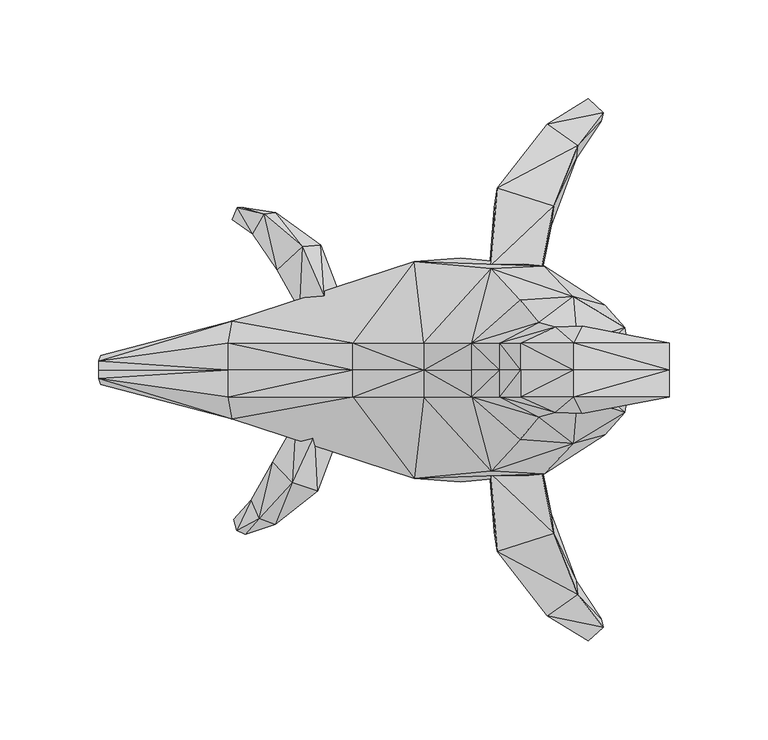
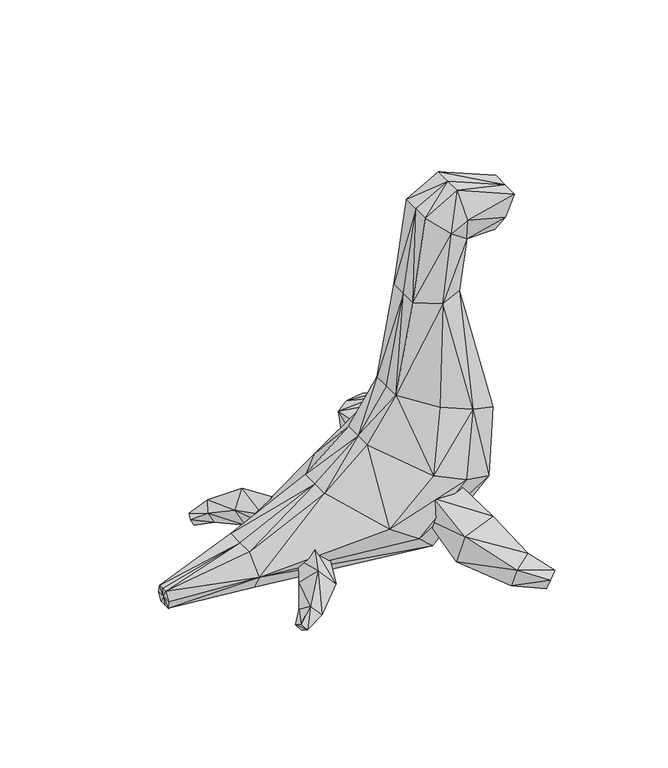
"""IFC4 building model written with IfcOpenShell, lengths in millimetres: geographic element geometry, Enscape AssetDefinition - Plushy 05 1 : Enscape AssetDefinition - Plushy 05 1."""

from ifc_helpers import new_model, si_unit, origin, place, context, project, spatial, faceted_brep, source, transform, mapped, element, save


def geographic_element_082f936b(model_context):
    return source(origin(), model_context, "Body", "Brep", [
        faceted_brep([(151.3231993, -13.6622097, 273.3122408), (107.2338149, -22.2273469, 270.5610693), (143.7341422, -13.6265568, 255.2364767), (103.1615436, -13.6622125, 293.5328484), (93.7436968, -21.6093324, 262.9465759), (111.3060787, -13.662206, 247.5892454), (151.3231993, -2.31e-05, 273.3122408), (76.1813223, -13.6622097, 278.3038914), (103.1615436, -2.55e-05, 293.5328484), (85.2843598, -23.8805264, 205.2417248), (65.6936392, -13.6622014, 206.7632824), (76.1813223, -2.37e-05, 278.3038914), (103.1615436, 13.6621594, 293.5328484), (76.1813223, 13.6621613, 278.3038914), (65.6936392, -1.52e-05, 206.7632824), (65.6936392, 13.6621697, 206.7632824), (51.3715632, -13.6621892, 129.3358952), (51.3715632, -5.9e-06, 129.3358952), (51.3715632, 13.6621771, 129.3359101), (85.2843598, 23.8804966, 205.2417248), (93.7436968, 21.6092896, 262.9465759), (111.3060787, 13.662165, 247.5892454), (107.2338149, 22.2273041, 270.5610693), (104.8750877, 13.6621697, 203.7201524), (76.0517791, 35.2983065, 123.1517345), (102.8487235, 37.1764675, 113.1877452), (111.3060787, -2e-05, 247.5892454), (104.8750877, -1.48e-05, 203.7201524), (128.8543195, 21.491209, 96.8029872), (118.803449, 32.9132229, 45.6662364), (88.2167146, 52.5729321, 64.7442639), (61.1773878, 51.2482561, 77.0368725), (27.1974765, 13.6621809, 93.5964361), (22.2688932, 54.9200587, 45.2668704), (45.8467826, 56.6528998, 29.6635423), (-69.8465183, 24.7570407, 16.4440777), (-8.7765995, 13.6621865, 63.2885545), (27.1974765, -1.7e-06, 93.5964361), (-8.7765995, -13.6621846, 63.2885545), (-8.7765995, 1.9e-06, 63.2885545), (27.1974765, -13.6621855, 93.5964286), (-71.7755035, 13.6621902, 32.8881182), (-71.7755035, -13.6621809, 32.8881182), (-71.7755035, 5.6e-06, 32.8881182), (-69.8465183, -24.7570258, 16.4440777), (22.2688932, -54.9200475, 45.266863), (61.1773878, -51.2482561, 77.0368651), (76.0517791, -35.2983139, 123.151727), (88.2167146, -52.5729246, 64.7442564), (102.8487235, -37.1764712, 113.1877378), (45.8467826, -56.6528887, 29.6635218), (118.803449, -32.9132117, 45.666229), (104.8750877, -13.6622014, 203.7201524), (128.8543195, -21.4912146, 96.8029723), (132.2860718, -2.1e-06, 96.8029872), (126.5584677, 4e-06, 45.666229), (71.2117329, -32.9132155, 0.1688444), (76.2419552, 9.5e-06, 0.1688444), (71.2117329, 32.9132341, 0.1688444), (-67.9175258, 13.662193, 1.93e-05), (-67.9175258, -13.6621762, 1.93e-05), (-67.9175258, 9.5e-06, 1.93e-05), (-135.518074, 4.890163, 1.93e-05), (-137.2493207, 4.3897512, 15.0526166), (-136.3836974, 7.3144804, 7.5263227), (-135.518074, 9.5e-06, 1.93e-05), (-136.3836974, 8.6e-06, 7.526313), (-135.518074, -4.8901439, 1.93e-05), (-136.3836974, -7.3144636, 7.5263227), (-137.2493207, -4.3897359, 15.0526166), (-137.2493207, 7.7e-06, 15.0526166), (136.1450851, -1.98e-05, 245.2987432), (136.1450851, -11.1992899, 245.6882149), (143.7341422, -2.09e-05, 255.2364767), (136.1450851, 11.199249, 245.6882149), (143.7341422, 13.6265131, 255.2364767), (151.3231993, 13.6621613, 273.3122408)], [[[0, 1, 2]], [[1, 0, 3]], [[3, 4, 1]], [[5, 2, 1]], [[1, 4, 5]], [[6, 3, 0]], [[2, 6, 0]], [[4, 3, 7]], [[3, 6, 8]], [[8, 7, 3]], [[9, 5, 4]], [[4, 10, 9]], [[10, 4, 7]], [[11, 10, 7]], [[7, 8, 11]], [[6, 12, 8]], [[13, 8, 12]], [[8, 13, 11]], [[10, 11, 14]], [[15, 11, 13]], [[11, 15, 14]], [[16, 9, 10]], [[14, 16, 10]], [[16, 14, 17]], [[18, 14, 15]], [[14, 18, 17]], [[19, 18, 15]], [[20, 15, 13]], [[15, 20, 19]], [[12, 20, 13]], [[21, 19, 20]], [[20, 12, 22]], [[21, 20, 22]], [[19, 21, 23]], [[18, 19, 24]], [[23, 25, 19]], [[25, 24, 19]], [[23, 26, 27]], [[26, 23, 21]], [[27, 28, 23]], [[25, 23, 28]], [[29, 25, 28]], [[25, 29, 30]], [[31, 25, 30]], [[25, 31, 24]], [[31, 18, 24]], [[18, 31, 32]], [[33, 32, 31]], [[30, 33, 31]], [[29, 34, 30]], [[33, 30, 34]], [[35, 36, 33]], [[32, 33, 36]], [[35, 33, 34]], [[36, 37, 32]], [[37, 18, 32]], [[18, 37, 17]], [[38, 37, 39]], [[37, 38, 40]], [[16, 37, 40]], [[37, 16, 17]], [[37, 36, 39]], [[36, 35, 41]], [[41, 39, 36]], [[42, 39, 43]], [[39, 42, 38]], [[39, 41, 43]], [[38, 44, 45]], [[44, 38, 42]], [[45, 40, 38]], [[46, 16, 40]], [[40, 45, 46]], [[9, 16, 47]], [[16, 46, 47]], [[45, 48, 46]], [[46, 49, 47]], [[49, 46, 48]], [[50, 45, 44]], [[48, 45, 50]], [[50, 51, 48]], [[51, 49, 48]], [[49, 52, 9]], [[52, 49, 53]], [[49, 51, 53]], [[9, 47, 49]], [[5, 9, 52]], [[52, 26, 5]], [[26, 52, 27]], [[53, 27, 52]], [[27, 53, 54]], [[51, 54, 53]], [[28, 27, 54]], [[54, 51, 55]], [[29, 54, 55]], [[54, 29, 28]], [[56, 55, 51]], [[55, 56, 57]], [[58, 55, 57]], [[55, 58, 29]], [[34, 29, 58]], [[57, 59, 58]], [[35, 58, 59]], [[58, 35, 34]], [[60, 57, 56]], [[57, 60, 61]], [[59, 57, 61]], [[61, 62, 59]], [[62, 35, 59]], [[63, 35, 64]], [[35, 63, 41]], [[35, 62, 64]], [[62, 61, 65]], [[62, 66, 64]], [[66, 62, 65]], [[67, 61, 60]], [[61, 67, 65]], [[67, 66, 65]], [[66, 67, 68]], [[69, 66, 68]], [[66, 69, 70]], [[63, 66, 70]], [[66, 63, 64]], [[63, 43, 41]], [[43, 63, 70]], [[69, 43, 70]], [[69, 44, 42]], [[44, 69, 68]], [[43, 69, 42]], [[67, 44, 68]], [[44, 67, 60]], [[44, 56, 50]], [[56, 44, 60]], [[51, 50, 56]], [[71, 5, 26]], [[21, 71, 26]], [[5, 71, 72]], [[2, 5, 72]], [[71, 2, 72]], [[2, 71, 73]], [[71, 21, 74]], [[71, 75, 73]], [[75, 71, 74]], [[21, 75, 74]], [[75, 21, 22]], [[22, 76, 75]], [[6, 75, 76]], [[75, 6, 73]], [[6, 2, 73]], [[12, 6, 76]], [[76, 22, 12]]]),
        faceted_brep([(93.0373147, -82.8939751, 48.7732217), (61.1680709, -52.715864, 57.5864203), (64.2558187, -91.9755027, 46.4928299), (86.2677321, -49.3189245, 57.5864203), (59.7903617, -42.5361246, 34.4345868), (84.8900229, -39.1391814, 34.4345942), (91.6901678, -72.9400292, 20.6946358), (105.0853655, -113.6255786, 30.5937752), (104.3185443, -106.9337055, 12.6882065), (62.9086643, -82.0215642, 18.4142366), (88.7641832, -117.7585274, 9.5316907), (89.5310119, -124.450393, 27.4372511), (117.0218289, -126.0333359, 11.4213852), (109.2906147, -132.9059899, 9.1839638), (110.3366688, -137.2117251, 18.7952798), (118.0678755, -130.3390712, 21.0327022)], [[[0, 1, 2]], [[1, 0, 3]], [[4, 2, 1]], [[5, 1, 3]], [[1, 5, 4]], [[6, 3, 0]], [[2, 7, 0]], [[8, 0, 7]], [[0, 8, 6]], [[3, 6, 5]], [[9, 5, 6]], [[5, 9, 4]], [[2, 4, 9]], [[6, 10, 9]], [[11, 9, 10]], [[9, 11, 2]], [[10, 6, 8]], [[7, 12, 8]], [[13, 8, 12]], [[8, 13, 10]], [[14, 10, 13]], [[10, 14, 11]], [[7, 2, 11]], [[15, 11, 14]], [[11, 15, 7]], [[12, 7, 15]], [[14, 12, 15]], [[12, 14, 13]]]),
        faceted_brep([(93.0373147, 82.8939676, 48.7732217), (61.1680709, 52.7158752, 57.5864166), (86.2677321, 49.3189357, 57.5864166), (64.2558113, 91.9754878, 46.4928262), (59.7903617, 42.5361283, 34.4346054), (84.8900229, 39.1391851, 34.4345942), (91.6901678, 72.9400367, 20.6946358), (105.0853655, 113.6255562, 30.5937659), (104.3185443, 106.9336906, 12.6882065), (62.9086643, 82.0215419, 18.4142366), (89.5310044, 124.4503632, 27.4372604), (88.7641832, 117.7585125, 9.5316814), (117.0218214, 126.033321, 11.4213955), (109.2906147, 132.9059601, 9.1839731), (118.0678755, 130.3390563, 21.0327115), (110.3366688, 137.2116953, 18.7952798)], [[[0, 1, 2]], [[1, 0, 3]], [[3, 4, 1]], [[5, 1, 4]], [[1, 5, 2]], [[6, 2, 5]], [[2, 6, 0]], [[7, 3, 0]], [[8, 0, 6]], [[0, 8, 7]], [[4, 3, 9]], [[3, 7, 10]], [[10, 9, 3]], [[9, 5, 4]], [[5, 9, 6]], [[11, 6, 9]], [[6, 11, 8]], [[12, 7, 8]], [[13, 8, 11]], [[8, 13, 12]], [[14, 10, 7]], [[7, 12, 14]], [[9, 10, 11]], [[10, 14, 15]], [[15, 11, 10]], [[11, 15, 13]], [[15, 12, 13]], [[12, 15, 14]]]),
        faceted_brep([(-36.2343974, -50.6629907, 4.7041243), (-17.4597111, -36.9314738, 21.4741025), (-26.5087485, -61.23887, 17.7204832), (-27.1983836, -30.6128431, 10.1401005), (-27.9054958, -32.3413983, 33.0085233), (-37.6441702, -26.0227714, 21.6745324), (-49.1699688, -46.5123728, 18.1328971), (-51.8803969, -68.6565414, 0.9483594), (-60.1458848, -65.782465, 9.5265508), (-39.4443274, -57.0882596, 31.149257), (-56.195613, -75.2554759, 16.3157657), (-47.930114, -78.1295449, 7.7375737), (-68.9199194, -75.7124946, 4.5169992), (-67.3774183, -81.3800097, 7.9021184), (-63.2332265, -83.2546353, 2.8751658), (-64.7757202, -77.5871277, -0.5099631)], [[[0, 1, 2]], [[1, 0, 3]], [[4, 2, 1]], [[5, 1, 3]], [[1, 5, 4]], [[6, 3, 0]], [[2, 7, 0]], [[8, 0, 7]], [[0, 8, 6]], [[3, 6, 5]], [[9, 5, 6]], [[5, 9, 4]], [[2, 4, 9]], [[6, 10, 9]], [[11, 9, 10]], [[9, 11, 2]], [[10, 6, 8]], [[7, 12, 8]], [[13, 8, 12]], [[8, 13, 10]], [[14, 10, 13]], [[10, 14, 11]], [[7, 2, 11]], [[15, 11, 14]], [[11, 15, 7]], [[12, 7, 15]], [[14, 12, 15]], [[12, 14, 13]]]),
        faceted_brep([(-37.8939323, 51.2720495, 5.6232368), (-15.8159491, 39.3699333, 19.5220392), (-28.2957703, 31.8851136, 12.3485951), (-24.8840172, 63.2331893, 13.5941878), (-23.0743531, 37.6623794, 33.9313), (-35.5541669, 30.1775672, 26.7578252), (-47.0612347, 50.5122244, 22.3645568), (-53.5025373, 69.4209784, 2.5154571), (-59.3666583, 68.717204, 13.2523542), (-34.0513326, 62.4733903, 30.335499), (-47.6975963, 79.62621, 6.2022833), (-53.5616986, 78.9224133, 16.9391893), (-69.7089657, 76.0566145, 6.5833549), (-67.2025532, 82.2504163, 7.7295639), (-66.9434294, 76.0828778, 0.3938639), (-64.4370168, 82.2766945, 1.5400731)], [[[0, 1, 2]], [[1, 0, 3]], [[3, 4, 1]], [[5, 1, 4]], [[1, 5, 2]], [[6, 2, 5]], [[2, 6, 0]], [[7, 3, 0]], [[8, 0, 6]], [[0, 8, 7]], [[4, 3, 9]], [[3, 7, 10]], [[10, 9, 3]], [[9, 5, 4]], [[5, 9, 6]], [[11, 6, 9]], [[6, 11, 8]], [[12, 7, 8]], [[13, 8, 11]], [[8, 13, 12]], [[14, 10, 7]], [[7, 12, 14]], [[9, 10, 11]], [[10, 14, 15]], [[15, 11, 10]], [[11, 15, 13]], [[15, 12, 13]], [[12, 15, 14]]]),
    ])


if __name__ == "__main__":
    model = new_model("IFC4")
    model_context = context("Model", 3, world=origin())
    ifc_project = project(units=[si_unit("LENGTHUNIT", "METRE", prefix="MILLI")], contexts=[model_context])
    site = spatial("IfcSite", under=ifc_project)
    building = spatial("IfcBuilding", under=site)
    placement = place(None, origin())
    geographic_element_shape = geographic_element_082f936b(model_context)
    element("IfcGeographicElement", 1, ObjectType="Enscape AssetDefinition - Plushy 05 1 : Enscape AssetDefinition - Plushy 05 1", at=placement, inside=building, context=model_context, shape_type="MappedRepresentation", body=[
        mapped(geographic_element_shape, transform((0.0, 0.0, 0.0), x_axis=(1.0, 0.0, 0.0), y_axis=(0.0, 1.0, 0.0), z_axis=(0.0, 0.0, 1.0))),
    ])
    save(model, "model.ifc")
